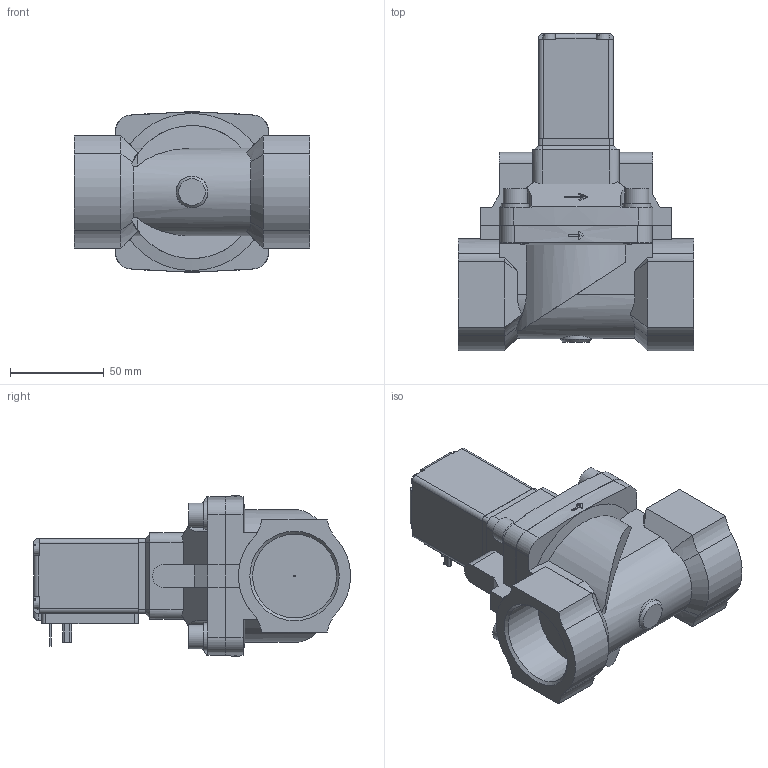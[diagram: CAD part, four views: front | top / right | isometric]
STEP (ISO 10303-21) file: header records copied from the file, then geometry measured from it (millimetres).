
FILE_DESCRIPTION(/* description */ ('STEP AP214'),/* implementation_level */ '2;1');
FILE_NAME(/* name */ '5404-331639-Servo-assisted_2_2_way_piston_valve',/* time_stamp */ '2024-02-29T14:45:30+01:00',/* author */ ('License CC BY-ND 4.0'),/* organization */ ('CADENAS'),/* preprocessor_version */ 'ST-DEVELOPER v19.3',/* originating_system */ 'PARTsolutions',/* authorisation */ ' ');
FILE_SCHEMA (('AUTOMOTIVE_DESIGN {1 0 10303 214 3 1 1}'));
Length unit declared in the file: millimetre
Products named in the file (4): 5404-331639-Servo-assisted 2/2 way piston valve; 5282g-8840MS000-2/2-Wege-Magnetventil_Gehaeuse; 5282d-40MSAZ4_ON-2/2-Wege-Magnetventil_Deckel; 6213sp 40 Kein 40
Assembly tree (3 placements, depth 2):
  5404-331639-Servo-assisted 2/2 way piston valve
    5282g-8840MS000-2/2-Wege-Magnetventil_Gehaeuse
    5282d-40MSAZ4_ON-2/2-Wege-Magnetventil_Deckel
    6213sp 40 Kein 40
Bounding box: 126 x 169.4 x 86 mm (x, y, z)
Volume: 610919.3 mm3; surface area: 87105 mm2
Topology: 3 solids, 3 shells, 308 faces, 805 edges, 525 vertices
Faces by surface type: plane 187, cylinder 98, cone 23
Full cylindrical faces by diameter (mm): 1 x1, 2.45 x1, 13 x4, 14.8 x4, 17 x1, 44.845 x2
Entity records: 10175 total; most frequent: CARTESIAN_POINT 1820, DIRECTION 1588, ORIENTED_EDGE 1554, EDGE_CURVE 777, AXIS2_PLACEMENT_3D 556, VERTEX_POINT 517, LINE 476, VECTOR 476
